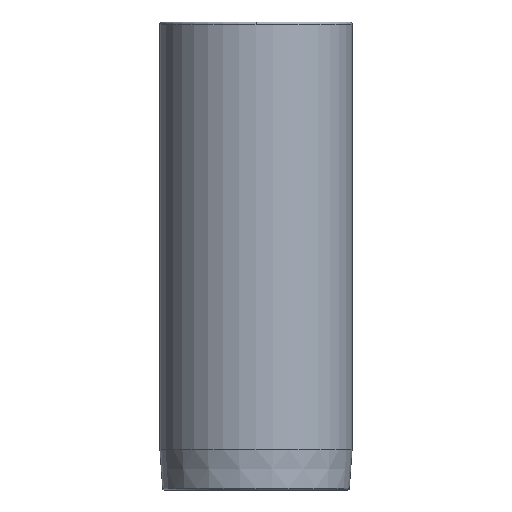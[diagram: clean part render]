
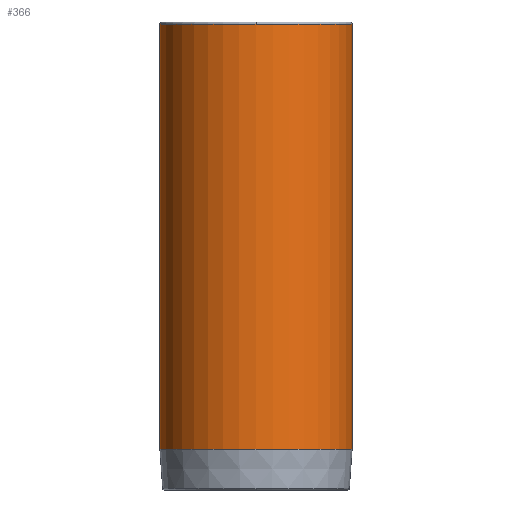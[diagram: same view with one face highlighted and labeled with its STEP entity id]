
A CAD part, front view. The second image highlights one B-rep face of the part: STEP entity #366.
In plain terms, the highlighted cylindrical face has radius 23.625 mm (diameter 47.25 mm), a partial arc.
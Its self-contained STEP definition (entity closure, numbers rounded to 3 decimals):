
#271=CARTESIAN_POINT('',(0.0,-23.625,53.5));
#272=VERTEX_POINT('',#271);
#298=CARTESIAN_POINT('',(-23.625,0.,53.5));
#299=VERTEX_POINT('',#298);
#307=CARTESIAN_POINT('',(0.0,0.,53.5));
#308=DIRECTION('',(0.0,0.0,1.0));
#309=DIRECTION('',(1.0,0.0,0.0));
#310=AXIS2_PLACEMENT_3D('',#307,#308,#309);
#311=CIRCLE('',#310,23.625);
#312=EDGE_CURVE('',#299,#272,#311,.T.);
#317=CARTESIAN_POINT('',(0.0,0.,1.267));
#318=DIRECTION('',(0.0,0.,1.0));
#319=DIRECTION('',(1.0,0.0,0.0));
#320=AXIS2_PLACEMENT_3D('',#317,#318,#319);
#321=CYLINDRICAL_SURFACE('',#320,23.625);
#322=CARTESIAN_POINT('',(23.625,0.,53.5));
#323=VERTEX_POINT('',#322);
#324=CARTESIAN_POINT('',(23.625,0.,-50.965));
#325=VERTEX_POINT('',#324);
#326=CARTESIAN_POINT('',(23.625,0.,53.5));
#327=DIRECTION('',(0.0,0.0,-1.0));
#328=VECTOR('',#327,104.465);
#329=LINE('',#326,#328);
#330=EDGE_CURVE('',#323,#325,#329,.T.);
#331=ORIENTED_EDGE('',*,*,#330,.F.);
#332=CARTESIAN_POINT('',(0.0,0.,53.5));
#333=DIRECTION('',(0.0,0.0,1.0));
#334=DIRECTION('',(1.0,0.0,0.0));
#335=AXIS2_PLACEMENT_3D('',#332,#333,#334);
#336=CIRCLE('',#335,23.625);
#337=EDGE_CURVE('',#272,#323,#336,.T.);
#338=ORIENTED_EDGE('',*,*,#337,.F.);
#339=ORIENTED_EDGE('',*,*,#312,.F.);
#340=CARTESIAN_POINT('',(-23.625,0.,-50.965));
#341=VERTEX_POINT('',#340);
#342=CARTESIAN_POINT('',(-23.625,0.,53.5));
#343=DIRECTION('',(0.0,0.0,-1.0));
#344=VECTOR('',#343,104.465);
#345=LINE('',#342,#344);
#346=EDGE_CURVE('',#299,#341,#345,.T.);
#347=ORIENTED_EDGE('',*,*,#346,.T.);
#348=CARTESIAN_POINT('',(0.0,-23.625,-50.965));
#349=VERTEX_POINT('',#348);
#350=CARTESIAN_POINT('',(0.0,0.,-50.965));
#351=DIRECTION('',(0.0,0.0,1.0));
#352=DIRECTION('',(1.0,0.0,0.0));
#353=AXIS2_PLACEMENT_3D('',#350,#351,#352);
#354=CIRCLE('',#353,23.625);
#355=EDGE_CURVE('',#341,#349,#354,.T.);
#356=ORIENTED_EDGE('',*,*,#355,.T.);
#357=CARTESIAN_POINT('',(0.0,0.,-50.965));
#358=DIRECTION('',(0.0,0.0,1.0));
#359=DIRECTION('',(1.0,0.0,0.0));
#360=AXIS2_PLACEMENT_3D('',#357,#358,#359);
#361=CIRCLE('',#360,23.625);
#362=EDGE_CURVE('',#349,#325,#361,.T.);
#363=ORIENTED_EDGE('',*,*,#362,.T.);
#364=EDGE_LOOP('',(#331,#338,#339,#347,#356,#363));
#365=FACE_OUTER_BOUND('',#364,.T.);
#366=ADVANCED_FACE('',(#365),#321,.T.);
